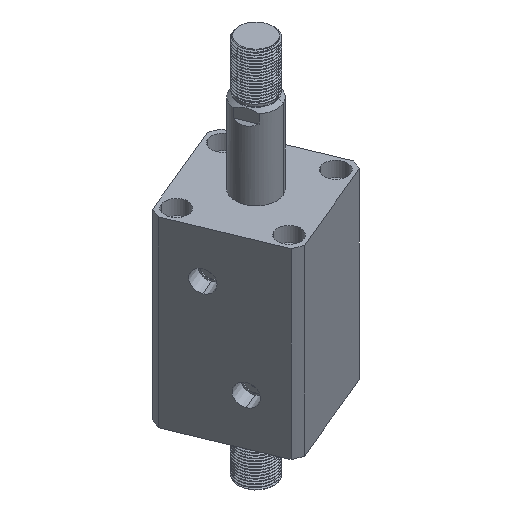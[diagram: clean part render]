
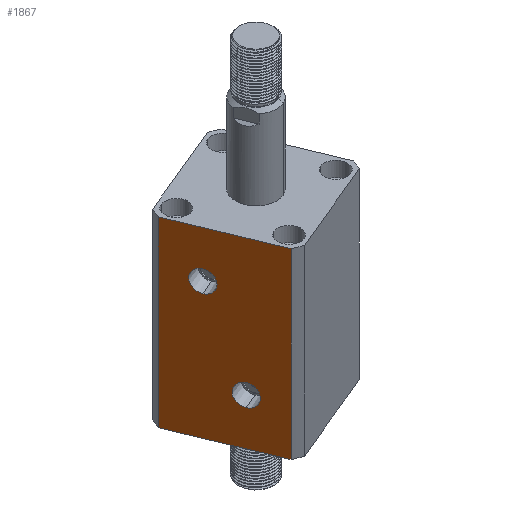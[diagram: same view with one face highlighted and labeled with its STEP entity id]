
A CAD part, isometric view. The second image highlights one B-rep face of the part: STEP entity #1867.
In plain terms, the highlighted planar face has unit normal (-0.924, -0.383, 0) as drawn and (0, 1, 0) by its records, which use the part's own axes.
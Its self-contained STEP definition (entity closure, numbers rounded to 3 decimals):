
#483 = CARTESIAN_POINT ( 'NONE',  ( -30.615, 35., 0. ) ) ;
#1254 = AXIS2_PLACEMENT_3D ( 'NONE', #14626, #6470, #15994 ) ;
#1357 = CIRCLE ( 'NONE', #12740, 6.532 ) ;
#1867 = ADVANCED_FACE ( 'NONE', ( #9651, #12930, #9229 ), #8553, .F. ) ;
#1887 = VECTOR ( 'NONE', #5175, 1000. ) ;
#1908 = ORIENTED_EDGE ( 'NONE', *, *, #5003, .T. ) ;
#1979 = LINE ( 'NONE', #8062, #15550 ) ;
#2167 = AXIS2_PLACEMENT_3D ( 'NONE', #11324, #3269, #12721 ) ;
#2252 = CARTESIAN_POINT ( 'NONE',  ( -35., 35., 110. ) ) ;
#2591 = CARTESIAN_POINT ( 'NONE',  ( 10., 35., 82. ) ) ;
#3269 = DIRECTION ( 'NONE',  ( 0., -1., 0. ) ) ;
#3343 = EDGE_CURVE ( 'NONE', #16189, #11023, #1357, .T. ) ;
#3946 = DIRECTION ( 'NONE',  ( 0., 0., 1. ) ) ;
#4169 = CIRCLE ( 'NONE', #1254, 6.532 ) ;
#5003 = EDGE_CURVE ( 'NONE', #17445, #8454, #1979, .T. ) ;
#5061 = CARTESIAN_POINT ( 'NONE',  ( -10., 35., 28. ) ) ;
#5083 = ORIENTED_EDGE ( 'NONE', *, *, #10162, .F. ) ;
#5175 = DIRECTION ( 'NONE',  ( 0., 0., 1. ) ) ;
#5210 = VECTOR ( 'NONE', #11697, 1000. ) ;
#6055 = CARTESIAN_POINT ( 'NONE',  ( -30.615, 35., 110. ) ) ;
#6288 = EDGE_LOOP ( 'NONE', ( #5083, #1908, #13139, #6331 ) ) ;
#6331 = ORIENTED_EDGE ( 'NONE', *, *, #8107, .F. ) ;
#6396 = DIRECTION ( 'NONE',  ( 0., 0., 1. ) ) ;
#6470 = DIRECTION ( 'NONE',  ( 0., 1., 0. ) ) ;
#6692 = EDGE_LOOP ( 'NONE', ( #14207, #7374 ) ) ;
#6785 = EDGE_CURVE ( 'NONE', #11023, #16189, #16931, .T. ) ;
#6915 = DIRECTION ( 'NONE',  ( 0., 1., 0. ) ) ;
#7226 = VECTOR ( 'NONE', #15755, 1000. ) ;
#7374 = ORIENTED_EDGE ( 'NONE', *, *, #3343, .F. ) ;
#7572 = CARTESIAN_POINT ( 'NONE',  ( -30.615, 35., -190. ) ) ;
#7651 = LINE ( 'NONE', #7572, #7226 ) ;
#8062 = CARTESIAN_POINT ( 'NONE',  ( -35., 35., 0. ) ) ;
#8107 = EDGE_CURVE ( 'NONE', #10538, #9283, #15623, .T. ) ;
#8173 = ORIENTED_EDGE ( 'NONE', *, *, #8649, .F. ) ;
#8365 = CARTESIAN_POINT ( 'NONE',  ( -10., 35., 21.468 ) ) ;
#8454 = VERTEX_POINT ( 'NONE', #483 ) ;
#8553 = PLANE ( 'NONE',  #2167 ) ;
#8594 = CARTESIAN_POINT ( 'NONE',  ( 10., 35., 88.532 ) ) ;
#8649 = EDGE_CURVE ( 'NONE', #16609, #9243, #12622, .T. ) ;
#9229 = FACE_OUTER_BOUND ( 'NONE', #6288, .T. ) ;
#9243 = VERTEX_POINT ( 'NONE', #8594 ) ;
#9283 = VERTEX_POINT ( 'NONE', #6055 ) ;
#9304 = CARTESIAN_POINT ( 'NONE',  ( 10., 35., 75.468 ) ) ;
#9412 = DIRECTION ( 'NONE',  ( -1., 0., 0. ) ) ;
#9424 = LINE ( 'NONE', #13293, #1887 ) ;
#9651 = FACE_BOUND ( 'NONE', #6692, .T. ) ;
#9694 = CARTESIAN_POINT ( 'NONE',  ( 30.615, 35., 0. ) ) ;
#10162 = EDGE_CURVE ( 'NONE', #17445, #10538, #9424, .T. ) ;
#10538 = VERTEX_POINT ( 'NONE', #12349 ) ;
#11023 = VERTEX_POINT ( 'NONE', #16089 ) ;
#11324 = CARTESIAN_POINT ( 'NONE',  ( -35., 35., 110. ) ) ;
#11409 = ORIENTED_EDGE ( 'NONE', *, *, #12693, .F. ) ;
#11697 = DIRECTION ( 'NONE',  ( -1., 0., 0. ) ) ;
#12019 = DIRECTION ( 'NONE',  ( 0., 1., 0. ) ) ;
#12109 = AXIS2_PLACEMENT_3D ( 'NONE', #2591, #12019, #3946 ) ;
#12349 = CARTESIAN_POINT ( 'NONE',  ( 30.615, 35., 110. ) ) ;
#12622 = CIRCLE ( 'NONE', #12109, 6.532 ) ;
#12693 = EDGE_CURVE ( 'NONE', #9243, #16609, #4169, .T. ) ;
#12721 = DIRECTION ( 'NONE',  ( 0., 0., -1. ) ) ;
#12740 = AXIS2_PLACEMENT_3D ( 'NONE', #5061, #14549, #6396 ) ;
#12925 = AXIS2_PLACEMENT_3D ( 'NONE', #15065, #6915, #16438 ) ;
#12930 = FACE_BOUND ( 'NONE', #13071, .T. ) ;
#13071 = EDGE_LOOP ( 'NONE', ( #11409, #8173 ) ) ;
#13139 = ORIENTED_EDGE ( 'NONE', *, *, #16464, .F. ) ;
#13293 = CARTESIAN_POINT ( 'NONE',  ( 30.615, 35., -190. ) ) ;
#14207 = ORIENTED_EDGE ( 'NONE', *, *, #6785, .F. ) ;
#14549 = DIRECTION ( 'NONE',  ( 0., 1., 0. ) ) ;
#14626 = CARTESIAN_POINT ( 'NONE',  ( 10., 35., 82. ) ) ;
#15065 = CARTESIAN_POINT ( 'NONE',  ( -10., 35., 28. ) ) ;
#15550 = VECTOR ( 'NONE', #9412, 1000. ) ;
#15623 = LINE ( 'NONE', #2252, #5210 ) ;
#15755 = DIRECTION ( 'NONE',  ( 0., 0., -1. ) ) ;
#15994 = DIRECTION ( 'NONE',  ( 0., 0., 1. ) ) ;
#16089 = CARTESIAN_POINT ( 'NONE',  ( -10., 35., 34.532 ) ) ;
#16189 = VERTEX_POINT ( 'NONE', #8365 ) ;
#16438 = DIRECTION ( 'NONE',  ( 0., 0., 1. ) ) ;
#16464 = EDGE_CURVE ( 'NONE', #9283, #8454, #7651, .T. ) ;
#16609 = VERTEX_POINT ( 'NONE', #9304 ) ;
#16931 = CIRCLE ( 'NONE', #12925, 6.532 ) ;
#17445 = VERTEX_POINT ( 'NONE', #9694 ) ;
